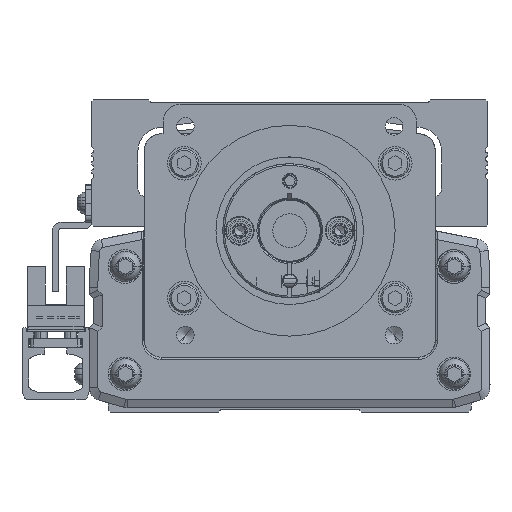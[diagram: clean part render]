
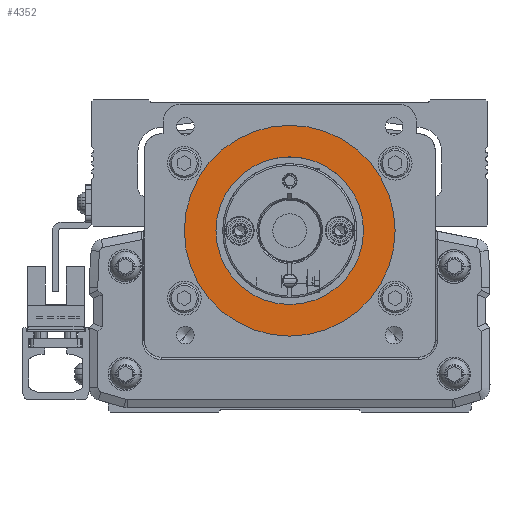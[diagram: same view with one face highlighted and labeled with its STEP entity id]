
A CAD part, front view. The second image highlights one B-rep face of the part: STEP entity #4352.
In plain terms, the highlighted planar face has unit normal (0, -1, 0).
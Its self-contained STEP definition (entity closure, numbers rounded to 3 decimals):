
#4352=ADVANCED_FACE('',(#11887,#11888),#11889,.T.);
#11887=FACE_BOUND('',#23410,.T.);
#11888=FACE_OUTER_BOUND('',#23411,.T.);
#11889=PLANE('',#23412);
#23410=EDGE_LOOP('',(#37294,#37295));
#23411=EDGE_LOOP('',(#37296,#37297));
#23412=AXIS2_PLACEMENT_3D('',#37298,#37299,#37300);
#37294=ORIENTED_EDGE('',*,*,#69185,.T.);
#37295=ORIENTED_EDGE('',*,*,#69186,.T.);
#37296=ORIENTED_EDGE('',*,*,#69187,.F.);
#37297=ORIENTED_EDGE('',*,*,#69188,.F.);
#37298=CARTESIAN_POINT('',(0.,-160.778,0.));
#37299=DIRECTION('',(0.,-1.0,0.));
#37300=DIRECTION('',(1.0,0.,0.));
#69185=EDGE_CURVE('',#82412,#82413,#82414,.T.);
#69186=EDGE_CURVE('',#82413,#82412,#82415,.T.);
#69187=EDGE_CURVE('',#82416,#82417,#82418,.T.);
#69188=EDGE_CURVE('',#82417,#82416,#82419,.T.);
#82412=VERTEX_POINT('',#101448);
#82413=VERTEX_POINT('',#101449);
#82414=CIRCLE('',#101450,17.5);
#82415=CIRCLE('',#101451,17.5);
#82416=VERTEX_POINT('',#101452);
#82417=VERTEX_POINT('',#101453);
#82418=CIRCLE('',#101454,25.0);
#82419=CIRCLE('',#101455,25.0);
#101448=CARTESIAN_POINT('',(17.5,-160.778,0.));
#101449=CARTESIAN_POINT('',(-17.5,-160.778,0.));
#101450=AXIS2_PLACEMENT_3D('',#127095,#127096,#127097);
#101451=AXIS2_PLACEMENT_3D('',#127098,#127099,#127100);
#101452=CARTESIAN_POINT('',(25.,-160.778,0.));
#101453=CARTESIAN_POINT('',(-25.,-160.778,0.));
#101454=AXIS2_PLACEMENT_3D('',#127101,#127102,#127103);
#101455=AXIS2_PLACEMENT_3D('',#127104,#127105,#127106);
#127095=CARTESIAN_POINT('',(0.,-160.778,0.));
#127096=DIRECTION('',(0.,1.0,0.));
#127097=DIRECTION('',(-1.0,0.,0.));
#127098=CARTESIAN_POINT('',(0.,-160.778,0.));
#127099=DIRECTION('',(0.,1.0,0.));
#127100=DIRECTION('',(-1.0,0.,0.));
#127101=CARTESIAN_POINT('',(0.,-160.778,0.));
#127102=DIRECTION('',(0.,1.0,0.));
#127103=DIRECTION('',(1.0,0.,0.));
#127104=CARTESIAN_POINT('',(0.,-160.778,0.));
#127105=DIRECTION('',(0.,1.0,0.));
#127106=DIRECTION('',(1.0,0.,0.));
